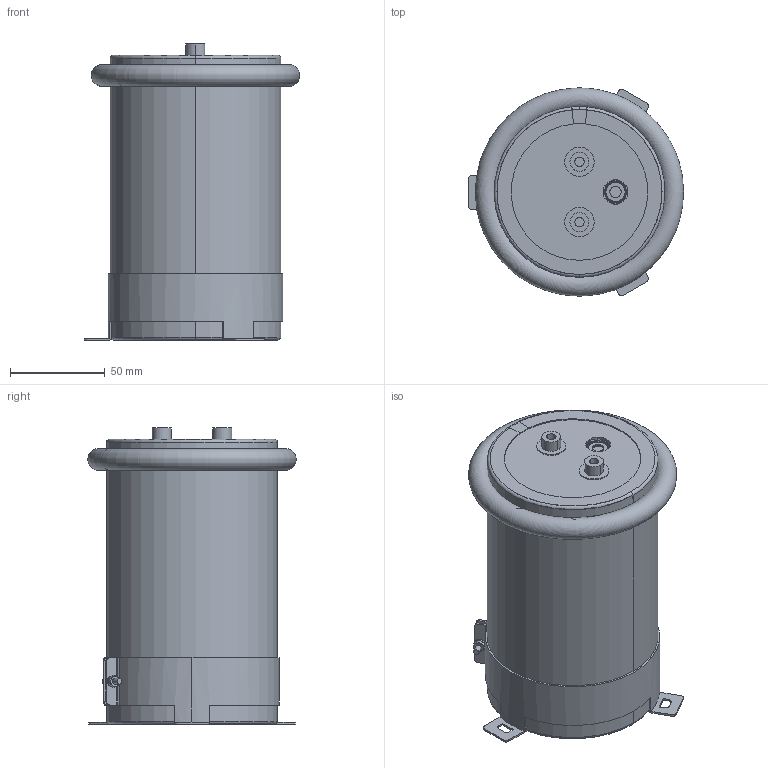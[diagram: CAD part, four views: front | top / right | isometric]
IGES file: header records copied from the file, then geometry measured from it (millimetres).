
Start section: 3D InterOp IGES (v. 2019 1.0.2), Spatial Corp. Copyright (c) 1999-2017.
Global section: file name: 90x150_Screw.igs; native system: Spatial Corp.; preprocessor: 3D InterOp ACIS/IGES; author: Noname; organization: Noname; date: 20220314.175644; units: millimetre
Bounding box: 113.35 x 109.7 x 156 mm (x, y, z)
Volume: 1298946.4 mm3; surface area: 307316.3 mm2
Topology: 9 solids, 9 shells, 352 faces, 953 edges, 591 vertices
Faces by surface type: plane 112, cylinder 110, torus 90, cone 38, sphere 2
